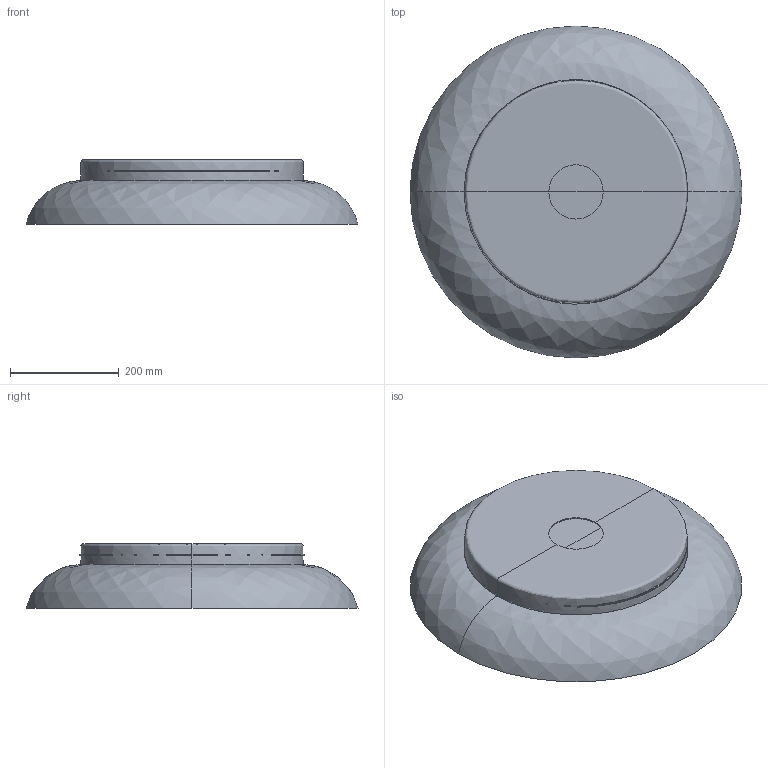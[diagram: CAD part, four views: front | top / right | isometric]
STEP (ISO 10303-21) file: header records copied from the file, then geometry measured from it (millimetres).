
FILE_DESCRIPTION(/* description */ (''),/* implementation_level */ '2;1');
FILE_NAME(/* name */ '3087DTF Chapeau plafone Ø60',/* time_stamp */ '2026-04-27T11:34:00+02:00',/* author */ (''),/* organization */ (''),/* preprocessor_version */ 'ST-DEVELOPER v19.2',/* originating_system */ 'Rhino 8.20',/* authorisation */ '');
FILE_SCHEMA (('CONFIG_CONTROL_DESIGN'));
Length unit declared in the file: millimetre
Products named in the file (1): Document
Bounding box: 610.4 x 610.4 x 118.63 mm (x, y, z)
Volume: 1211903.8 mm3; surface area: 1424802.5 mm2
Topology: 2 solids, 2 shells, 31 faces, 71 edges, 38 vertices
Faces by surface type: bspline 23, plane 6, cylinder 2
Entity records: 2022 total; most frequent: CARTESIAN_POINT 1389, ORIENTED_EDGE 134, DIRECTION 80, EDGE_CURVE 67, AXIS2_PLACEMENT_3D 44, VERTEX_POINT 38, TRIMMED_CURVE 34, CIRCLE 34
